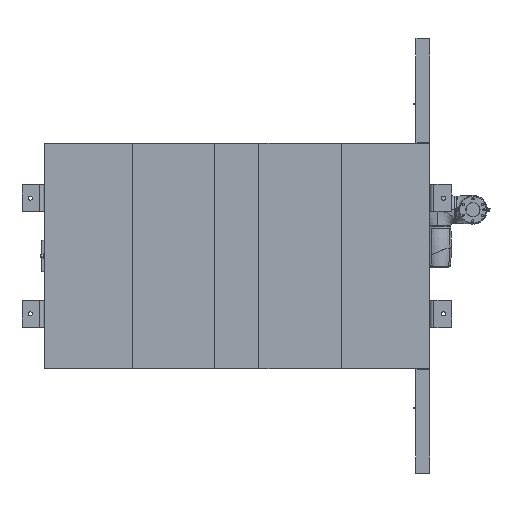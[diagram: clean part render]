
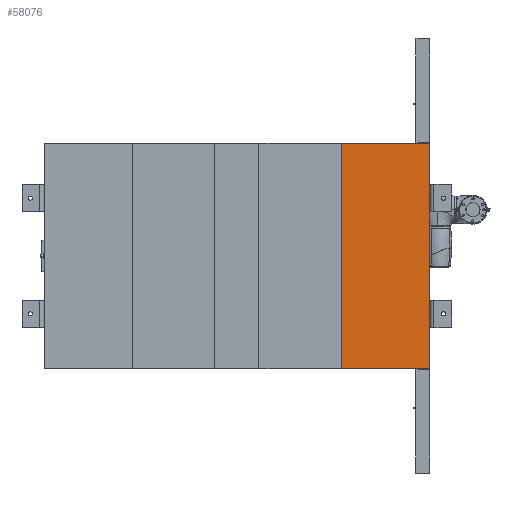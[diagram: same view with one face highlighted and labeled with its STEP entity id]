
A CAD part, front view. The second image highlights one B-rep face of the part: STEP entity #58076.
In plain terms, the highlighted planar face has unit normal (0, -1, 0).
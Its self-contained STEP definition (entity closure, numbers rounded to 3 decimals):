
#10153 = DIRECTION ( 'NONE',  ( 0., 0., -1. ) ) ;
#11955 = CARTESIAN_POINT ( 'NONE',  ( 421.405, -28.502, 2020. ) ) ;
#13048 = DIRECTION ( 'NONE',  ( 0., 0., -1. ) ) ;
#20798 = CARTESIAN_POINT ( 'NONE',  ( 101.405, -28.502, 2020. ) ) ;
#21065 = VECTOR ( 'NONE', #10153, 1000. ) ;
#29201 = DIRECTION ( 'NONE',  ( -1., 0., 0. ) ) ;
#31342 = PLANE ( 'NONE',  #209617 ) ;
#35297 = CARTESIAN_POINT ( 'NONE',  ( 421.405, -28.502, 2020. ) ) ;
#38076 = VERTEX_POINT ( 'NONE', #172354 ) ;
#39206 = DIRECTION ( 'NONE',  ( 1., 0., 0. ) ) ;
#58076 = ADVANCED_FACE ( 'NONE', ( #61739 ), #31342, .F. ) ;
#61739 = FACE_OUTER_BOUND ( 'NONE', #122193, .T. ) ;
#67551 = EDGE_CURVE ( 'NONE', #163353, #38076, #137334, .T. ) ;
#76267 = VECTOR ( 'NONE', #39206, 1000. ) ;
#82443 = ORIENTED_EDGE ( 'NONE', *, *, #126435, .T. ) ;
#83959 = EDGE_CURVE ( 'NONE', #106880, #38076, #161893, .T. ) ;
#89734 = CARTESIAN_POINT ( 'NONE',  ( 101.405, -28.502, 2020. ) ) ;
#93948 = VERTEX_POINT ( 'NONE', #89734 ) ;
#94262 = DIRECTION ( 'NONE',  ( 0., 1., 0. ) ) ;
#97720 = ORIENTED_EDGE ( 'NONE', *, *, #158253, .F. ) ;
#106880 = VERTEX_POINT ( 'NONE', #35297 ) ;
#120640 = VECTOR ( 'NONE', #13048, 1000. ) ;
#122083 = CARTESIAN_POINT ( 'NONE',  ( 101.405, -28.502, 1200. ) ) ;
#122193 = EDGE_LOOP ( 'NONE', ( #183196, #143526, #97720, #82443 ) ) ;
#126435 = EDGE_CURVE ( 'NONE', #93948, #163353, #175317, .T. ) ;
#137334 = LINE ( 'NONE', #122083, #198201 ) ;
#143526 = ORIENTED_EDGE ( 'NONE', *, *, #83959, .F. ) ;
#158253 = EDGE_CURVE ( 'NONE', #93948, #106880, #184845, .T. ) ;
#161893 = LINE ( 'NONE', #11955, #120640 ) ;
#163353 = VERTEX_POINT ( 'NONE', #203223 ) ;
#172354 = CARTESIAN_POINT ( 'NONE',  ( 421.405, -28.502, 1200. ) ) ;
#175317 = LINE ( 'NONE', #194828, #21065 ) ;
#178054 = CARTESIAN_POINT ( 'NONE',  ( 101.405, -28.502, 2020. ) ) ;
#183196 = ORIENTED_EDGE ( 'NONE', *, *, #67551, .T. ) ;
#184845 = LINE ( 'NONE', #20798, #76267 ) ;
#187376 = DIRECTION ( 'NONE',  ( 1., 0., 0. ) ) ;
#194828 = CARTESIAN_POINT ( 'NONE',  ( 101.405, -28.502, 2020. ) ) ;
#198201 = VECTOR ( 'NONE', #187376, 1000. ) ;
#203223 = CARTESIAN_POINT ( 'NONE',  ( 101.405, -28.502, 1200. ) ) ;
#209617 = AXIS2_PLACEMENT_3D ( 'NONE', #178054, #94262, #29201 ) ;
